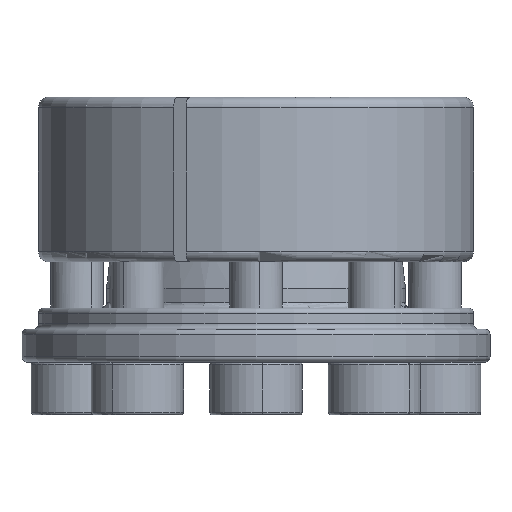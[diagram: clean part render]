
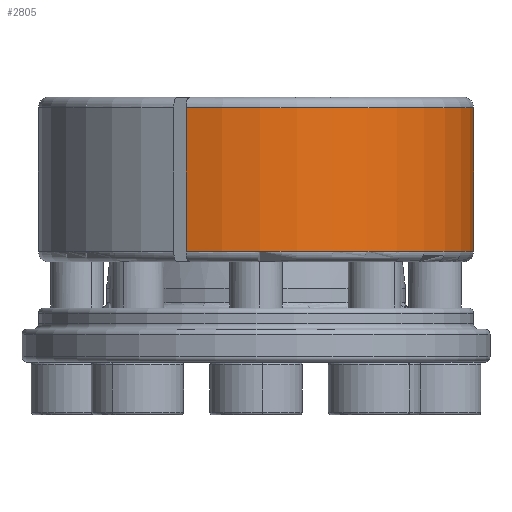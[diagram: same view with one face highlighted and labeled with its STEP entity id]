
A CAD part, front view. The second image highlights one B-rep face of the part: STEP entity #2805.
In plain terms, the highlighted cylindrical face has radius 16.5 mm (diameter 33 mm), a partial arc.
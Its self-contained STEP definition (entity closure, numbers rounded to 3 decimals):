
#1354 = CARTESIAN_POINT ( 'NONE',  ( -5.307, -15.623, -0.8 ) ) ;
#1374 = CARTESIAN_POINT ( 'NONE',  ( -5.307, -15.623, -11.7 ) ) ;
#1483 = CARTESIAN_POINT ( 'NONE',  ( 16.5, 0., -11.7 ) ) ;
#1520 = CARTESIAN_POINT ( 'NONE',  ( 16.5, 0., -0.8 ) ) ;
#2805 = ADVANCED_FACE ( 'NONE', ( #6978 ), #6984, .T. ) ;
#3068 = ORIENTED_EDGE ( 'NONE', *, *, #3857, .T. ) ;
#3069 = ORIENTED_EDGE ( 'NONE', *, *, #3856, .T. ) ;
#3070 = ORIENTED_EDGE ( 'NONE', *, *, #3858, .F. ) ;
#3071 = ORIENTED_EDGE ( 'NONE', *, *, #3859, .T. ) ;
#3856 = EDGE_CURVE ( 'NONE', #6149, #6186, #9174, .T. ) ;
#3857 = EDGE_CURVE ( 'NONE', #6040, #6149, #9177, .T. ) ;
#3858 = EDGE_CURVE ( 'NONE', #6019, #6186, #9180, .T. ) ;
#3859 = EDGE_CURVE ( 'NONE', #6019, #6040, #9178, .T. ) ;
#6019 = VERTEX_POINT ( 'NONE', #1354 ) ;
#6040 = VERTEX_POINT ( 'NONE', #1374 ) ;
#6149 = VERTEX_POINT ( 'NONE', #1483 ) ;
#6186 = VERTEX_POINT ( 'NONE', #1520 ) ;
#6492 = EDGE_LOOP ( 'NONE', ( #3068, #3069, #3070, #3071 ) ) ;
#6978 = FACE_OUTER_BOUND ( 'NONE', #6492, .T. ) ;
#6984 = CYLINDRICAL_SURFACE ( 'NONE', #8177, 16.5 ) ;
#7769 = DIRECTION ( 'NONE',  ( 1., 0., 0. ) ) ;
#7771 = DIRECTION ( 'NONE',  ( 0., 0., 1. ) ) ;
#7773 = CARTESIAN_POINT ( 'NONE',  ( 0., 0., 1. ) ) ;
#8177 = AXIS2_PLACEMENT_3D ( 'NONE', #7773, #7771, #7769 ) ;
#8503 = AXIS2_PLACEMENT_3D ( 'NONE', #10776, #10777, #10778 ) ;
#8504 = AXIS2_PLACEMENT_3D ( 'NONE', #10780, #10781, #10782 ) ;
#9174 = LINE ( 'NONE', #10771, #9179 ) ;
#9177 = CIRCLE ( 'NONE', #8503, 16.5 ) ;
#9178 = LINE ( 'NONE', #10779, #9183 ) ;
#9179 = VECTOR ( 'NONE', #10748, 1000. ) ;
#9180 = CIRCLE ( 'NONE', #8504, 16.5 ) ;
#9183 = VECTOR ( 'NONE', #10775, 1000. ) ;
#10748 = DIRECTION ( 'NONE',  ( 0., 0., 1. ) ) ;
#10771 = CARTESIAN_POINT ( 'NONE',  ( 16.5, 0., 1. ) ) ;
#10775 = DIRECTION ( 'NONE',  ( 0., 0., -1. ) ) ;
#10776 = CARTESIAN_POINT ( 'NONE',  ( 0., 0., -11.7 ) ) ;
#10777 = DIRECTION ( 'NONE',  ( 0., 0., 1. ) ) ;
#10778 = DIRECTION ( 'NONE',  ( 1., 0., 0. ) ) ;
#10779 = CARTESIAN_POINT ( 'NONE',  ( -5.307, -15.623, 1. ) ) ;
#10780 = CARTESIAN_POINT ( 'NONE',  ( 0., 0., -0.8 ) ) ;
#10781 = DIRECTION ( 'NONE',  ( 0., 0., 1. ) ) ;
#10782 = DIRECTION ( 'NONE',  ( 1., 0., 0. ) ) ;
